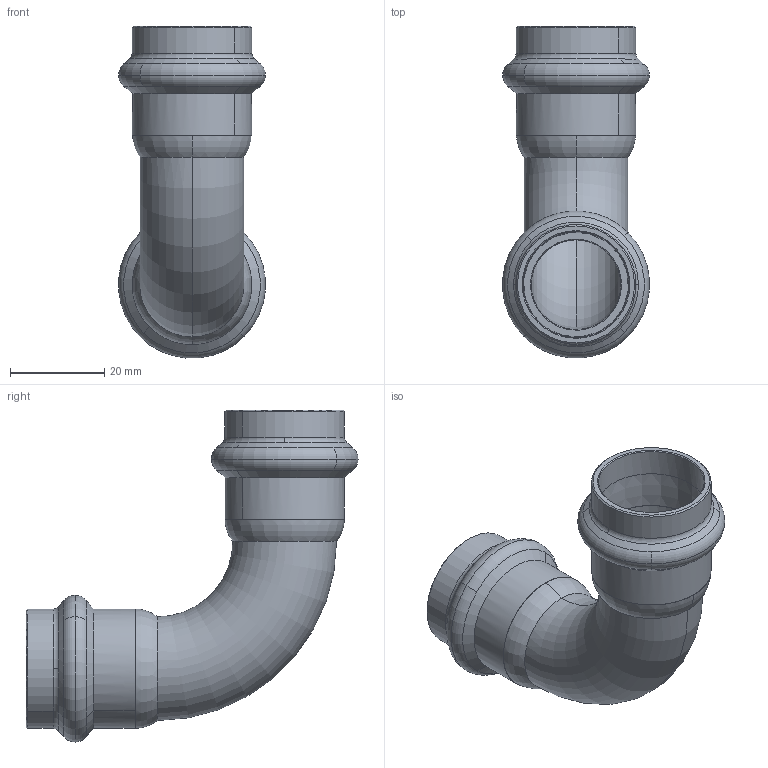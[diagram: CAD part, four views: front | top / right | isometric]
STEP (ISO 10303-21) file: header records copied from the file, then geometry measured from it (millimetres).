
FILE_DESCRIPTION(('CoCreate Modeling STEP Export'),'2;1');
FILE_NAME('8002VW22.stp','2013-01-29T13:44:59',(''),(''),'CoCreate Modeling STEP processor for AP214 (Solid Model)','CoCreate Modeling 17.00A 17-Jun-2010 (C) Parametric Technology GmbH','');
FILE_SCHEMA(('AUTOMOTIVE_DESIGN { 1 0 10303 214 1 1 1 1 }'));
Length unit declared in the file: millimetre
Products named in the file (2): 8002VW22
Assembly tree (1 placements, depth 2):
  8002VW22
    8002VW22
Bounding box: 31.08 x 70.39 x 70.39 mm (x, y, z)
Volume: 13202.8 mm3; surface area: 14981.3 mm2
Topology: 1 solids, 1 shells, 84 faces, 232 edges, 156 vertices
Faces by surface type: torus 32, cone 24, cylinder 20, plane 8
Entity records: 2900 total; most frequent: CARTESIAN_POINT 1099, ORIENTED_EDGE 464, DIRECTION 294, EDGE_CURVE 232, VERTEX_POINT 156, AXIS2_PLACEMENT_3D 125, EDGE_LOOP 92, FACE_OUTER_BOUND 84
